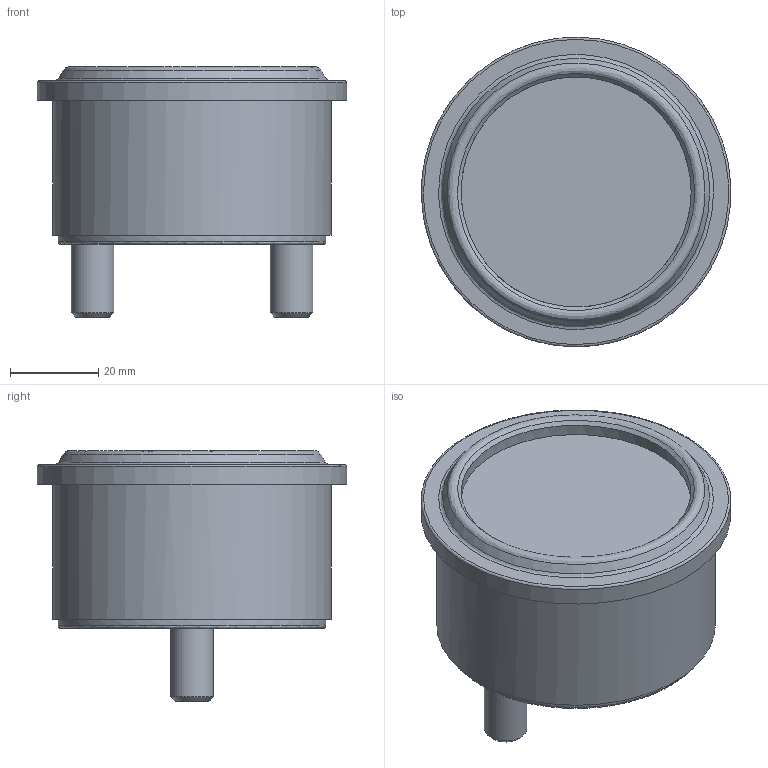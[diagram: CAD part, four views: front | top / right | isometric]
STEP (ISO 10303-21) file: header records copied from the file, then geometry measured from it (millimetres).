
FILE_DESCRIPTION(/* description */ (''),/* implementation_level */ '2;1');
FILE_NAME(/* name */ '8',/* time_stamp */ '2022-06-30T10:47:47+02:00',/* author */ (''),/* organization */ (''),/* preprocessor_version */ 'ST-DEVELOPER v16.5',/* originating_system */ 'Rhino 7.20',/* authorisation */ '');
FILE_SCHEMA (('AUTOMOTIVE_DESIGN_CC2'));
Length unit declared in the file: millimetre
Products named in the file (1): Document
Bounding box: 69.96 x 69.99 x 56.6 mm (x, y, z)
Volume: 120930.5 mm3; surface area: 16768.7 mm2
Topology: 1 solids, 1 shells, 21 faces, 34 edges, 20 vertices
Faces by surface type: bspline 8, plane 7, cylinder 6
Full cylindrical faces by diameter (mm): 9.64 x2, 52 x1, 60.5 x1, 63 x1, 70 x1
Entity records: 739 total; most frequent: CARTESIAN_POINT 468, ORIENTED_EDGE 68, EDGE_CURVE 34, EDGE_LOOP 26, ADVANCED_FACE 21, FACE_OUTER_BOUND 21, VERTEX_POINT 20, DIRECTION 17
